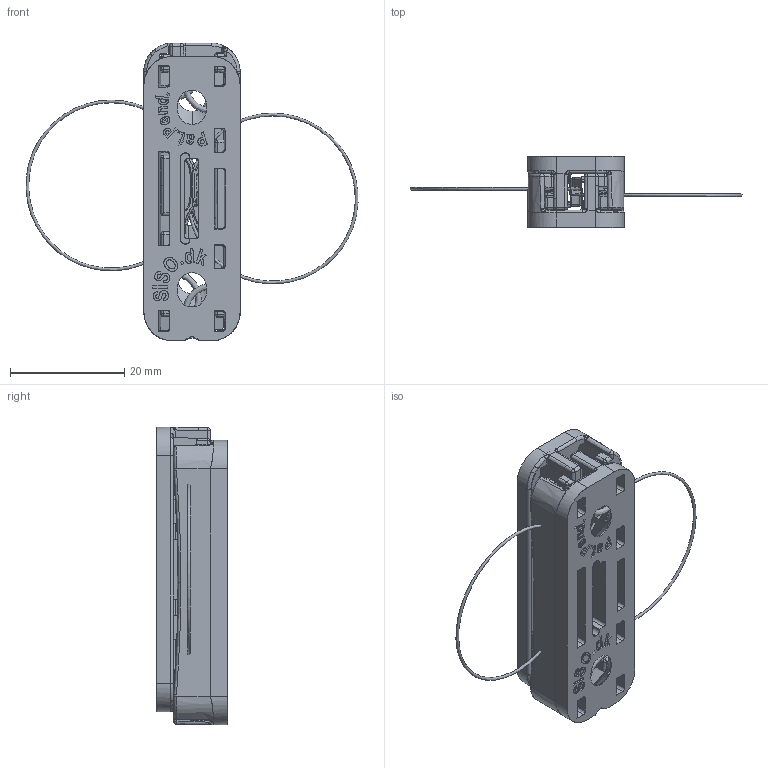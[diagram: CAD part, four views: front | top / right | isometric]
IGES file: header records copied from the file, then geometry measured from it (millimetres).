
Start section: 3D InterOp IGES (v. 2022 1.0.1), Spatial Corp. Copyright (c) 1999-2020.
Global section: file name: E554_11.01.505-0 Joint Connector Nigiri Universal Zinc Pl. 50x17x9.5mm_cust edt.igs; native system: Spatial Corp.; preprocessor: 3D InterOp GENERIC/IGES 3.0; author: Noname; organization: Noname; date: 20251208.171526; units: millimetre
Bounding box: 58.19 x 12.4 x 52.19 mm (x, y, z)
Surface area: 7630.2 mm2 (no closed solid volume)
Topology: 0 solids, 0 shells, 1150 faces, 7378 edges, 7336 vertices
Faces by surface type: bspline 446, extrusion 416, revolution 288
